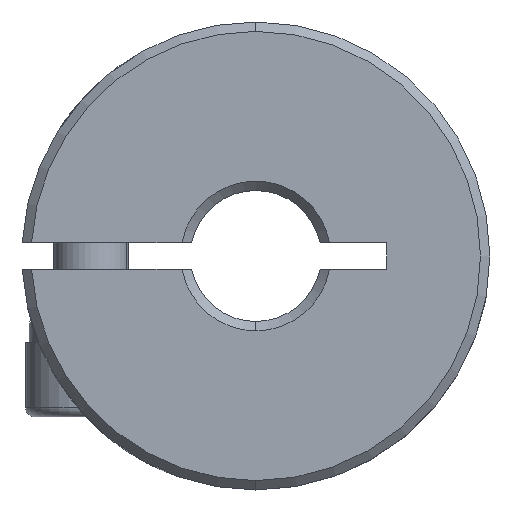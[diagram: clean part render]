
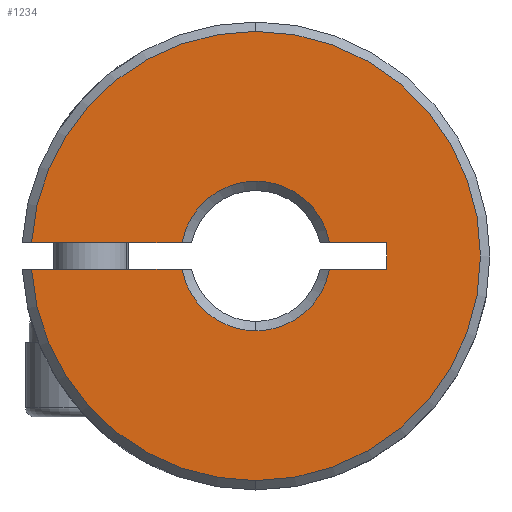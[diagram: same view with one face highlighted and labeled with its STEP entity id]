
A CAD part, front view. The second image highlights one B-rep face of the part: STEP entity #1234.
In plain terms, the highlighted planar face has unit normal (0, -1, 0).
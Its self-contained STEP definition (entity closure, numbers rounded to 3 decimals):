
#61 = EDGE_CURVE ( 'NONE', #5165, #2699, #2692, .T. ) ;
#73 = CIRCLE ( 'NONE', #5026, 12. ) ;
#143 = CARTESIAN_POINT ( 'NONE',  ( -3.938, 0.25, -0.7 ) ) ;
#146 = AXIS2_PLACEMENT_3D ( 'NONE', #5933, #3025, #5498 ) ;
#161 = DIRECTION ( 'NONE',  ( 0., 0., 1. ) ) ;
#189 = DIRECTION ( 'NONE',  ( 0., 0., 1. ) ) ;
#287 = CARTESIAN_POINT ( 'NONE',  ( 3.938, 0.25, -0.7 ) ) ;
#293 = VECTOR ( 'NONE', #3474, 1000. ) ;
#333 = ORIENTED_EDGE ( 'NONE', *, *, #3928, .T. ) ;
#351 = DIRECTION ( 'NONE',  ( 0., 1., 0. ) ) ;
#457 = LINE ( 'NONE', #5339, #3054 ) ;
#525 = CARTESIAN_POINT ( 'NONE',  ( 0., 0.25, 12. ) ) ;
#547 = VERTEX_POINT ( 'NONE', #143 ) ;
#605 = EDGE_CURVE ( 'NONE', #858, #2723, #1449, .T. ) ;
#796 = ORIENTED_EDGE ( 'NONE', *, *, #1928, .F. ) ;
#838 = LINE ( 'NONE', #2270, #5748 ) ;
#858 = VERTEX_POINT ( 'NONE', #1487 ) ;
#959 = ORIENTED_EDGE ( 'NONE', *, *, #2121, .F. ) ;
#1234 = ADVANCED_FACE ( 'NONE', ( #4122 ), #4337, .F. ) ;
#1276 = AXIS2_PLACEMENT_3D ( 'NONE', #6152, #5236, #189 ) ;
#1319 = EDGE_LOOP ( 'NONE', ( #1780, #4373, #3077, #959, #2203, #5534, #333, #4124, #5382, #796, #3107 ) ) ;
#1372 = CARTESIAN_POINT ( 'NONE',  ( -12.75, 0.25, 0.7 ) ) ;
#1393 = VERTEX_POINT ( 'NONE', #525 ) ;
#1441 = CARTESIAN_POINT ( 'NONE',  ( -11.98, 0.25, 0.7 ) ) ;
#1449 = CIRCLE ( 'NONE', #1276, 12. ) ;
#1487 = CARTESIAN_POINT ( 'NONE',  ( -11.98, 0.25, -0.7 ) ) ;
#1726 = CIRCLE ( 'NONE', #4529, 12. ) ;
#1780 = ORIENTED_EDGE ( 'NONE', *, *, #2775, .F. ) ;
#1822 = CARTESIAN_POINT ( 'NONE',  ( 0., 0.25, 0. ) ) ;
#1830 = DIRECTION ( 'NONE',  ( 0., -1., 0. ) ) ;
#1865 = CARTESIAN_POINT ( 'NONE',  ( 3.938, 0.25, 0.7 ) ) ;
#1928 = EDGE_CURVE ( 'NONE', #2699, #3009, #2824, .T. ) ;
#1973 = VECTOR ( 'NONE', #6223, 1000. ) ;
#2120 = AXIS2_PLACEMENT_3D ( 'NONE', #3860, #5340, #4818 ) ;
#2121 = EDGE_CURVE ( 'NONE', #858, #547, #3367, .T. ) ;
#2128 = CIRCLE ( 'NONE', #2120, 4. ) ;
#2203 = ORIENTED_EDGE ( 'NONE', *, *, #605, .T. ) ;
#2228 = CARTESIAN_POINT ( 'NONE',  ( 7., 0.25, -0.7 ) ) ;
#2270 = CARTESIAN_POINT ( 'NONE',  ( -12.75, 0.25, -0.7 ) ) ;
#2312 = DIRECTION ( 'NONE',  ( 0., 0., 1. ) ) ;
#2577 = CARTESIAN_POINT ( 'NONE',  ( -12.75, 0.25, -0.7 ) ) ;
#2617 = EDGE_CURVE ( 'NONE', #4378, #3009, #3051, .T. ) ;
#2692 = LINE ( 'NONE', #3086, #2932 ) ;
#2699 = VERTEX_POINT ( 'NONE', #5119 ) ;
#2723 = VERTEX_POINT ( 'NONE', #4638 ) ;
#2775 = EDGE_CURVE ( 'NONE', #5539, #5165, #838, .T. ) ;
#2824 = LINE ( 'NONE', #1372, #1973 ) ;
#2863 = DIRECTION ( 'NONE',  ( 0., 1., 0. ) ) ;
#2898 = AXIS2_PLACEMENT_3D ( 'NONE', #5349, #2863, #4828 ) ;
#2932 = VECTOR ( 'NONE', #161, 1000. ) ;
#2951 = DIRECTION ( 'NONE',  ( 0., -1., 0. ) ) ;
#3009 = VERTEX_POINT ( 'NONE', #1865 ) ;
#3025 = DIRECTION ( 'NONE',  ( 0., 1., 0. ) ) ;
#3051 = CIRCLE ( 'NONE', #146, 4. ) ;
#3054 = VECTOR ( 'NONE', #6311, 1000. ) ;
#3077 = ORIENTED_EDGE ( 'NONE', *, *, #4278, .T. ) ;
#3086 = CARTESIAN_POINT ( 'NONE',  ( 7., 0.25, 0.7 ) ) ;
#3107 = ORIENTED_EDGE ( 'NONE', *, *, #61, .F. ) ;
#3279 = CARTESIAN_POINT ( 'NONE',  ( 0., 0.25, 0. ) ) ;
#3334 = EDGE_CURVE ( 'NONE', #5539, #4726, #5666, .T. ) ;
#3367 = LINE ( 'NONE', #2577, #293 ) ;
#3385 = AXIS2_PLACEMENT_3D ( 'NONE', #3774, #351, #5270 ) ;
#3396 = EDGE_CURVE ( 'NONE', #2723, #1393, #73, .T. ) ;
#3474 = DIRECTION ( 'NONE',  ( 1., 0., 0. ) ) ;
#3499 = EDGE_CURVE ( 'NONE', #4378, #3542, #457, .T. ) ;
#3542 = VERTEX_POINT ( 'NONE', #1441 ) ;
#3774 = CARTESIAN_POINT ( 'NONE',  ( 0., 0.25, 0. ) ) ;
#3837 = CARTESIAN_POINT ( 'NONE',  ( -3.938, 0.25, 0.7 ) ) ;
#3860 = CARTESIAN_POINT ( 'NONE',  ( 0., 0.25, 0. ) ) ;
#3928 = EDGE_CURVE ( 'NONE', #1393, #3542, #1726, .T. ) ;
#4122 = FACE_OUTER_BOUND ( 'NONE', #1319, .T. ) ;
#4124 = ORIENTED_EDGE ( 'NONE', *, *, #3499, .F. ) ;
#4278 = EDGE_CURVE ( 'NONE', #4726, #547, #2128, .T. ) ;
#4337 = PLANE ( 'NONE',  #2898 ) ;
#4373 = ORIENTED_EDGE ( 'NONE', *, *, #3334, .T. ) ;
#4378 = VERTEX_POINT ( 'NONE', #3837 ) ;
#4529 = AXIS2_PLACEMENT_3D ( 'NONE', #1822, #2951, #6306 ) ;
#4638 = CARTESIAN_POINT ( 'NONE',  ( 0., 0.25, -12. ) ) ;
#4726 = VERTEX_POINT ( 'NONE', #5773 ) ;
#4818 = DIRECTION ( 'NONE',  ( 0., 0., 1. ) ) ;
#4828 = DIRECTION ( 'NONE',  ( 0., 0., 1. ) ) ;
#5026 = AXIS2_PLACEMENT_3D ( 'NONE', #3279, #1830, #2312 ) ;
#5119 = CARTESIAN_POINT ( 'NONE',  ( 7., 0.25, 0.7 ) ) ;
#5165 = VERTEX_POINT ( 'NONE', #2228 ) ;
#5236 = DIRECTION ( 'NONE',  ( 0., -1., 0. ) ) ;
#5270 = DIRECTION ( 'NONE',  ( 0., 0., 1. ) ) ;
#5339 = CARTESIAN_POINT ( 'NONE',  ( -12.75, 0.25, 0.7 ) ) ;
#5340 = DIRECTION ( 'NONE',  ( 0., 1., 0. ) ) ;
#5349 = CARTESIAN_POINT ( 'NONE',  ( -500., 0.25, -13.609 ) ) ;
#5382 = ORIENTED_EDGE ( 'NONE', *, *, #2617, .T. ) ;
#5498 = DIRECTION ( 'NONE',  ( 0., 0., 1. ) ) ;
#5534 = ORIENTED_EDGE ( 'NONE', *, *, #3396, .T. ) ;
#5539 = VERTEX_POINT ( 'NONE', #287 ) ;
#5666 = CIRCLE ( 'NONE', #3385, 4. ) ;
#5748 = VECTOR ( 'NONE', #6205, 1000. ) ;
#5773 = CARTESIAN_POINT ( 'NONE',  ( 0., 0.25, -4. ) ) ;
#5933 = CARTESIAN_POINT ( 'NONE',  ( 0., 0.25, 0. ) ) ;
#6152 = CARTESIAN_POINT ( 'NONE',  ( 0., 0.25, 0. ) ) ;
#6205 = DIRECTION ( 'NONE',  ( 1., 0., 0. ) ) ;
#6223 = DIRECTION ( 'NONE',  ( -1., 0., 0. ) ) ;
#6306 = DIRECTION ( 'NONE',  ( 0., 0., 1. ) ) ;
#6311 = DIRECTION ( 'NONE',  ( -1., 0., 0. ) ) ;
